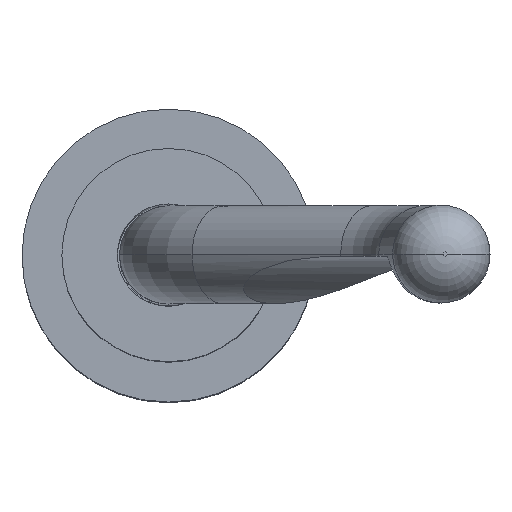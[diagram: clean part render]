
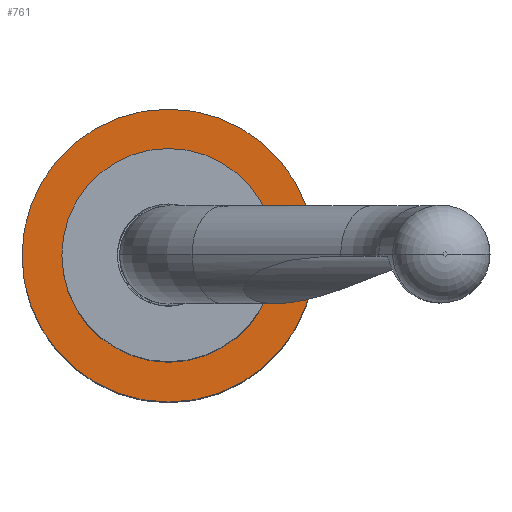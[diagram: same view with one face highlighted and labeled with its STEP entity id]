
A CAD part, top view. The second image highlights one B-rep face of the part: STEP entity #761.
In plain terms, the highlighted planar face has unit normal (0, 0, 1).
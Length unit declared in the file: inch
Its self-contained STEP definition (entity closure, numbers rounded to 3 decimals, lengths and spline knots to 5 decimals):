
#294 = DIRECTION ( 'NONE',  ( 1., 0., 0. ) ) ;
#622 = EDGE_LOOP ( 'NONE', ( #1858, #2626 ) ) ;
#761 = ADVANCED_FACE ( 'NONE', ( #916, #1304 ), #4356, .T. ) ;
#916 = FACE_BOUND ( 'NONE', #622, .T. ) ;
#1172 = VERTEX_POINT ( 'NONE', #2930 ) ;
#1304 = FACE_OUTER_BOUND ( 'NONE', #3078, .T. ) ;
#1356 = DIRECTION ( 'NONE',  ( 0., 0., 1. ) ) ;
#1566 = DIRECTION ( 'NONE',  ( 1., 0., 0. ) ) ;
#1858 = ORIENTED_EDGE ( 'NONE', *, *, #3435, .F. ) ;
#1867 = CARTESIAN_POINT ( 'NONE',  ( 0.1365, 0., 4.826 ) ) ;
#1938 = DIRECTION ( 'NONE',  ( 0., 0., 1. ) ) ;
#1945 = DIRECTION ( 'NONE',  ( 1., 0., 0. ) ) ;
#1977 = CARTESIAN_POINT ( 'NONE',  ( -0.1365, 0., 4.826 ) ) ;
#1984 = CARTESIAN_POINT ( 'NONE',  ( 0., 0., 4.826 ) ) ;
#2007 = VERTEX_POINT ( 'NONE', #1867 ) ;
#2061 = CIRCLE ( 'NONE', #2860, 0.1875 ) ;
#2289 = EDGE_CURVE ( 'NONE', #3371, #2007, #3002, .T. ) ;
#2328 = DIRECTION ( 'NONE',  ( 0., 0., 1. ) ) ;
#2331 = VERTEX_POINT ( 'NONE', #2384 ) ;
#2384 = CARTESIAN_POINT ( 'NONE',  ( -0.1875, 0., 4.826 ) ) ;
#2410 = CIRCLE ( 'NONE', #3414, 0.1365 ) ;
#2437 = AXIS2_PLACEMENT_3D ( 'NONE', #3395, #2458, #4465 ) ;
#2458 = DIRECTION ( 'NONE',  ( 0., 0., 1. ) ) ;
#2623 = AXIS2_PLACEMENT_3D ( 'NONE', #4317, #1356, #1566 ) ;
#2625 = EDGE_CURVE ( 'NONE', #1172, #2331, #4287, .T. ) ;
#2626 = ORIENTED_EDGE ( 'NONE', *, *, #2289, .F. ) ;
#2860 = AXIS2_PLACEMENT_3D ( 'NONE', #4126, #3836, #3086 ) ;
#2930 = CARTESIAN_POINT ( 'NONE',  ( 0.1875, 0., 4.826 ) ) ;
#3002 = CIRCLE ( 'NONE', #2437, 0.1365 ) ;
#3078 = EDGE_LOOP ( 'NONE', ( #4176, #4189 ) ) ;
#3086 = DIRECTION ( 'NONE',  ( 1., 0., 0. ) ) ;
#3088 = CARTESIAN_POINT ( 'NONE',  ( 0., 0., 4.826 ) ) ;
#3371 = VERTEX_POINT ( 'NONE', #1977 ) ;
#3395 = CARTESIAN_POINT ( 'NONE',  ( 0., 0., 4.826 ) ) ;
#3414 = AXIS2_PLACEMENT_3D ( 'NONE', #3088, #2328, #1945 ) ;
#3435 = EDGE_CURVE ( 'NONE', #2007, #3371, #2410, .T. ) ;
#3680 = EDGE_CURVE ( 'NONE', #2331, #1172, #2061, .T. ) ;
#3836 = DIRECTION ( 'NONE',  ( 0., 0., 1. ) ) ;
#4126 = CARTESIAN_POINT ( 'NONE',  ( 0., 0., 4.826 ) ) ;
#4141 = AXIS2_PLACEMENT_3D ( 'NONE', #1984, #1938, #294 ) ;
#4176 = ORIENTED_EDGE ( 'NONE', *, *, #2625, .T. ) ;
#4189 = ORIENTED_EDGE ( 'NONE', *, *, #3680, .T. ) ;
#4287 = CIRCLE ( 'NONE', #2623, 0.1875 ) ;
#4317 = CARTESIAN_POINT ( 'NONE',  ( 0., 0., 4.826 ) ) ;
#4356 = PLANE ( 'NONE',  #4141 ) ;
#4465 = DIRECTION ( 'NONE',  ( 1., 0., 0. ) ) ;
